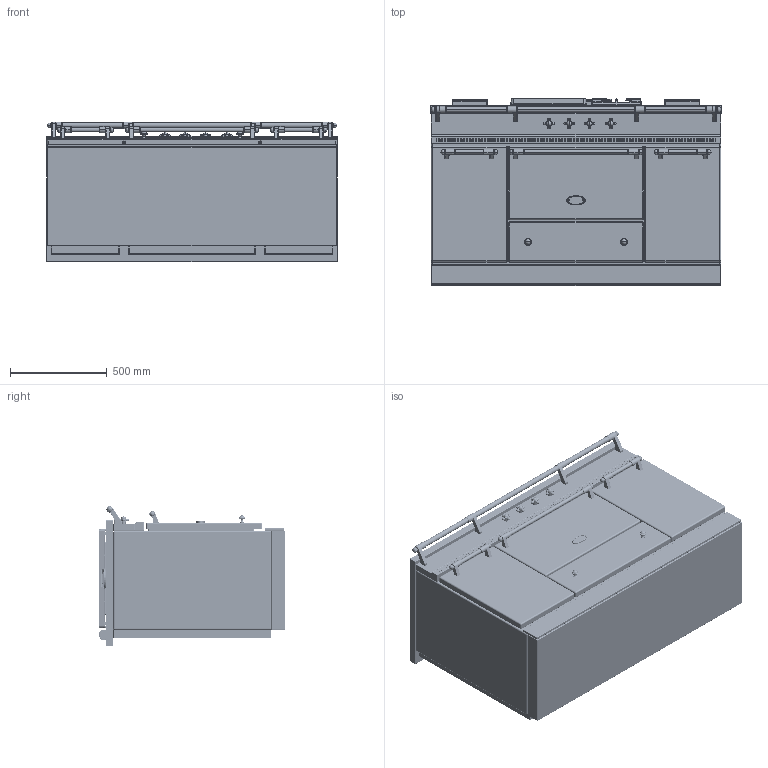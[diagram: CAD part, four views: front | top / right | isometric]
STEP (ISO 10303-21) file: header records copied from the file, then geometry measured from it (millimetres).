
FILE_DESCRIPTION((''),'2;1');
FILE_NAME('LCF1531__ASM','2021-12-08T08:45:25',('r.avril'),(''),'CREO PARAMETRIC BY PTC INC, 2017260','CREO PARAMETRIC BY PTC INC, 2017260','');
FILE_SCHEMA(('AP203_CONFIGURATION_CONTROLLED_3D_DESIGN_OF_MECHANICAL_PARTS_AND_ASSEMBLIES_MIM_LF { 1 0 10303 403 2 1 2 }'));
Products named in the file (29): BASE_EXPORT_FONTENAY_LG1531; 65650003; 65650004; 65650006; 65650007; 6531940; 6531941; 6531943; 65049009; 65650001; 6538399; 1931942; 65080022_AF0; 6531942_ASM; BASE_EXPORT_FONTENAY_LG1531_ASM; TABLE_1505_CLASSIQUE_3_FEUX; 5KW; 1_5KW; 3KW; 6537023; 65149005; 90000565_ASM; 65062008; 65062012; 90000549_ASM; CHEMINEE_2020_LG182_EXPORT_STEP; CHEMINEE_2020_LG371_EXPORT_STEP; TABLE_1505_TRADITION_ASM; LCF1531__ASM
Assembly tree (44 placements, depth 4):
  LCF1531__ASM
    BASE_EXPORT_FONTENAY_LG1531_ASM
      BASE_EXPORT_FONTENAY_LG1531
      65650003
      65650004
      65650006
      65650007
      6531940  x3
      6531941  x3
      6531943  x2
      65049009
      65650001
      6531942_ASM  x4
        6538399
        1931942
        65080022_AF0
    TABLE_1505_TRADITION_ASM
      TABLE_1505_CLASSIQUE_3_FEUX
      5KW
      1_5KW
      3KW
      90000565_ASM
        6537023
        65149005  x4
      90000549_ASM
        65062008
        65062012
        65149005  x4
      CHEMINEE_2020_LG182_EXPORT_STEP  x2
      CHEMINEE_2020_LG371_EXPORT_STEP
Bounding box: 1505 x 967 x 724 mm (x, y, z)
Volume: 550432775.5 mm3; surface area: 13600285.2 mm2
Topology: 53 solids, 65 shells, 7300 faces, 18914 edges, 11789 vertices
Faces by surface type: plane 3551, cylinder 2141, bspline 656, torus 330, sphere 268, cone 204, extrusion 134, revolution 16
Entity records: 236724 total; most frequent: CARTESIAN_POINT 62671, ORIENTED_EDGE 29256, DIRECTION 27062, EDGE_CURVE 14642, VECTOR 9566, PRESENTATION_STYLE_ASSIGNMENT 9558, STYLED_ITEM 9535, LINE 9516
